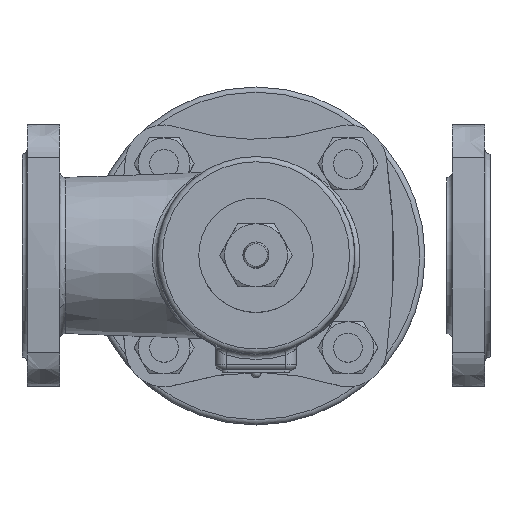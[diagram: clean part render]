
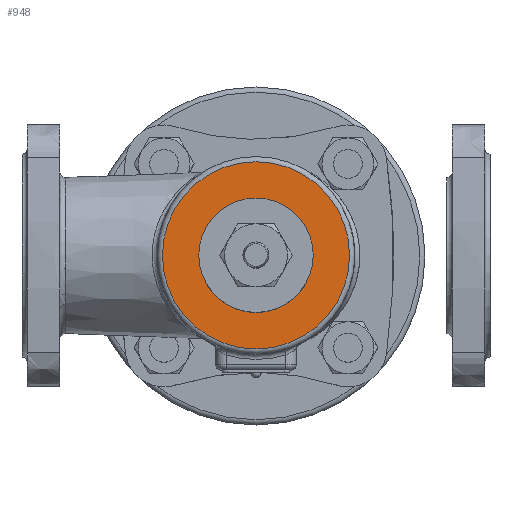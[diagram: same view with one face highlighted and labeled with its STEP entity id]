
A CAD part, top view. The second image highlights one B-rep face of the part: STEP entity #948.
In plain terms, the highlighted planar face has unit normal (0, 0, 1).
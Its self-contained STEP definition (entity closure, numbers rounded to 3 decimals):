
#948=ADVANCED_FACE('',(#1424,#1425),#1195,.T.);
#1195=PLANE('',#4301);
#1424=FACE_BOUND('',#1584,.T.);
#1425=FACE_BOUND('',#1585,.T.);
#1584=EDGE_LOOP('',(#2032));
#1585=EDGE_LOOP('',(#2033,#2034));
#2032=ORIENTED_EDGE('',*,*,#3562,.T.);
#2033=ORIENTED_EDGE('',*,*,#3561,.F.);
#2034=ORIENTED_EDGE('',*,*,#3552,.F.);
#3150=VERTEX_POINT('',#7294);
#3151=VERTEX_POINT('',#7296);
#3156=VERTEX_POINT('',#7318);
#3552=EDGE_CURVE('',#3151,#3150,#4073,.T.);
#3561=EDGE_CURVE('',#3150,#3151,#4080,.T.);
#3562=EDGE_CURVE('',#3156,#3156,#4081,.T.);
#4073=CIRCLE('',#4286,22.);
#4080=CIRCLE('',#4298,22.);
#4081=CIRCLE('',#4300,36.);
#4286=AXIS2_PLACEMENT_3D('',#7297,#4797,#4798);
#4298=AXIS2_PLACEMENT_3D('',#7315,#4823,#4824);
#4300=AXIS2_PLACEMENT_3D('',#7317,#4827,#4828);
#4301=AXIS2_PLACEMENT_3D('',#7319,#4829,#4830);
#4797=DIRECTION('',(0.,0.,1.));
#4798=DIRECTION('',(-1.,0.,0.));
#4823=DIRECTION('',(0.,0.,1.));
#4824=DIRECTION('',(-1.,0.,0.));
#4827=DIRECTION('',(0.,0.,1.));
#4828=DIRECTION('',(1.,0.,0.));
#4829=DIRECTION('',(0.,0.,1.));
#4830=DIRECTION('',(1.,0.,0.));
#7294=CARTESIAN_POINT('',(168.,0.,37.));
#7296=CARTESIAN_POINT('',(212.,0.,37.));
#7297=CARTESIAN_POINT('',(190.,0.,37.));
#7315=CARTESIAN_POINT('',(190.,0.,37.));
#7317=CARTESIAN_POINT('',(190.,0.,37.));
#7318=CARTESIAN_POINT('',(226.,0.,37.));
#7319=CARTESIAN_POINT('',(190.,0.,37.));
